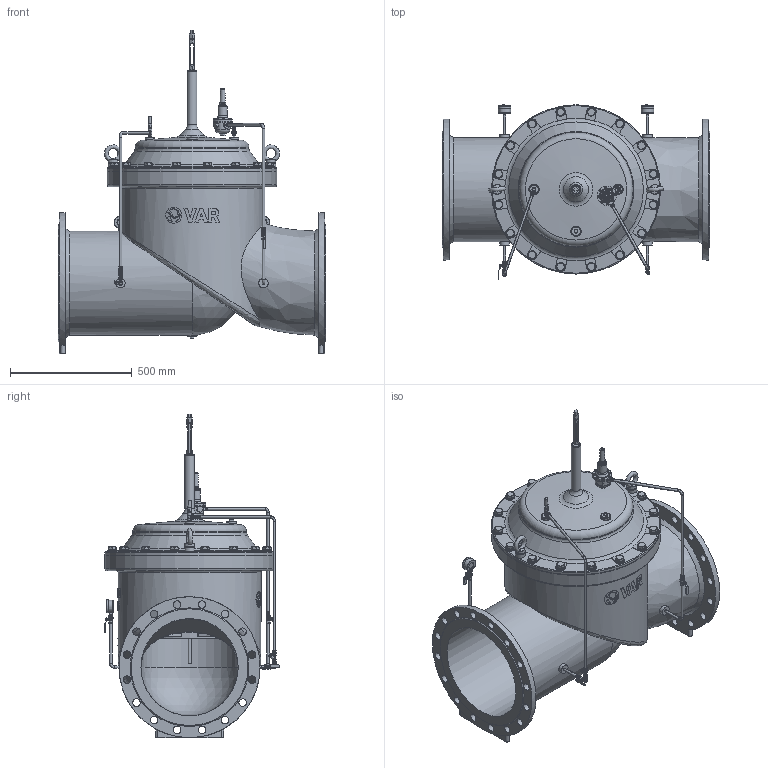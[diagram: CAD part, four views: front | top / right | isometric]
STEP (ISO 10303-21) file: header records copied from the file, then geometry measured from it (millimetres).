
FILE_DESCRIPTION(('STEP AP242'), '1');
FILE_NAME('PICO C200', '', ('UNSPECIFIED'), ('UNSPECIFIED'), 'C3D Converter', 'C3D Toolkit', '');
FILE_SCHEMA(('AP242_MANAGED_MODEL_BASED_3D_ENGINEERING_MIM_LF { 1 0 10303 442 1 1 4 }'));
Length unit declared in the file: millimetre
Products named in the file (26): М; ВР.752218.002
Assembly tree (77 placements, depth 3):
  (unnamed)
    (unnamed)
    (unnamed)
    (unnamed)
    (unnamed)
    (unnamed)
    (unnamed)
    (unnamed)
    М  x2
    (unnamed)
    (unnamed)  x4
    ВР.752218.002  x2
    (unnamed)  x6
    (unnamed)
    (unnamed)  x4
    (unnamed)
    (unnamed)
      (unnamed)
      (unnamed)
      (unnamed)  x8
      (unnamed)
    (unnamed)
    (unnamed)  x2
    (unnamed)  x2
    (unnamed)  x16
    (unnamed)  x16
Bounding box: 1100 x 720 x 1330 mm (x, y, z)
Volume: 69657312.4 mm3; surface area: 8715824.1 mm2
Topology: 83 solids, 85 shells, 3235 faces, 7988 edges, 5181 vertices
Faces by surface type: plane 1795, cylinder 691, cone 412, extrusion 135, torus 103, bspline 88, sphere 11
Full cylindrical faces by diameter (mm): 0.518 x2, 1.2 x1, 2.5 x2, 3 x8, 4 x25, 4.2 x4, 4.5 x4, 5 x2, 6 x8, 7 x8, 8 x5, 8.7 x1, 9 x16, 9.3 x6, 9.5 x2, 10 x4, 10.2 x4, 10.8 x2, 11 x18, 11.16 x4, 11.179 x6, 11.22 x4, 11.4 x2, 11.577 x2, 12 x10, 12.5 x3, 12.573 x15, 13.157 x2, 13.8 x4, 14.4 x5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
Entity records: 118595 total; most frequent: CARTESIAN_POINT 67329, ORIENTED_EDGE 8078, DIRECTION 7439, EDGE_CURVE 4039, VERTEX_POINT 2917, AXIS2_PLACEMENT_3D 2773, EDGE_LOOP 2586, FACE_BOUND 1984
